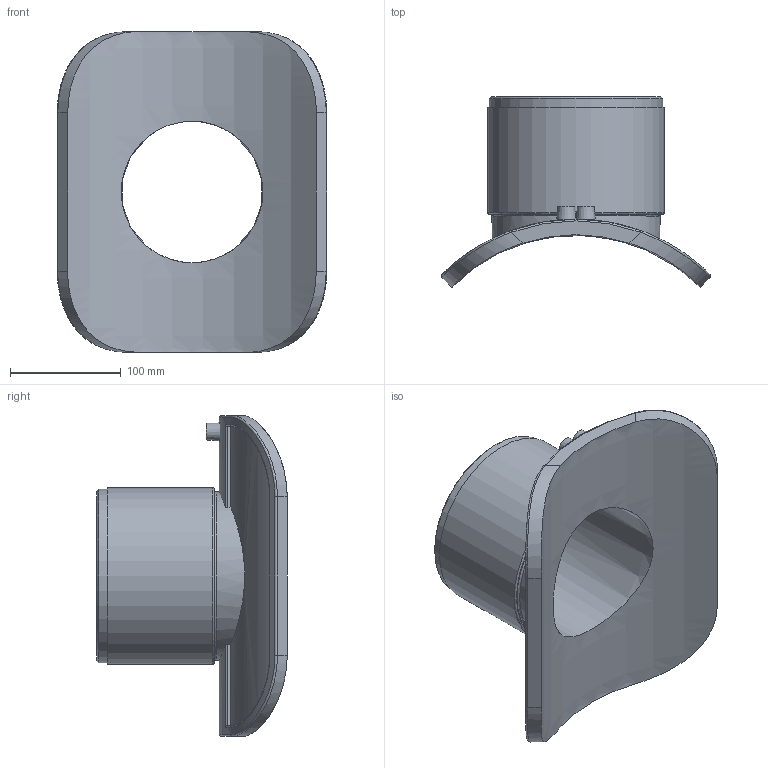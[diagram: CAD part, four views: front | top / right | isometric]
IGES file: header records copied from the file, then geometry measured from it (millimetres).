
Global section: file name: 4758S4315160.ipt; native system: Autodesk Inventor 2015; preprocessor: unknown; author: Кирилл,,11,0; organization: 20170830.202409; date: 20171106.093507; units: millimetre
Bounding box: 243.69 x 172.16 x 290 mm (x, y, z)
Volume: 1460878 mm3; surface area: 250064.5 mm2
Topology: 1 solids, 1 shells, 76 faces, 181 edges, 117 vertices
Faces by surface type: cylinder 22, plane 22, revolution 21, bspline 8, cone 3
Full cylindrical faces by diameter (mm): 4 x2, 152 x1, 156.8 x1, 160 x1
